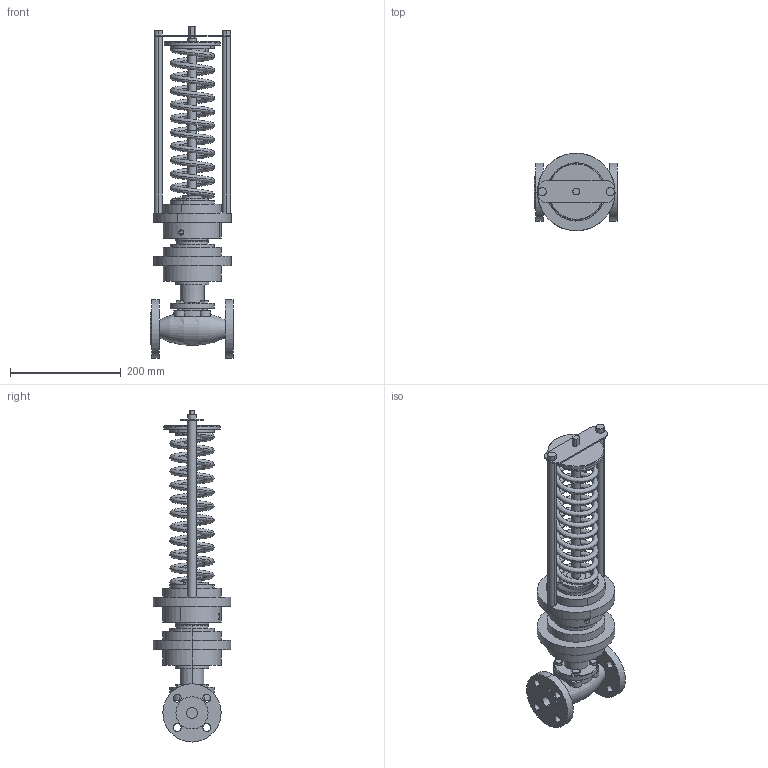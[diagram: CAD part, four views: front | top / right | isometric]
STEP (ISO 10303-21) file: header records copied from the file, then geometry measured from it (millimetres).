
FILE_DESCRIPTION (( 'STEP AP214' ), '1' );
FILE_NAME ('RDT, RDT-B DN-20 (0.1).STEP', '2025-12-12T06:56:38', ( '' ), ( '' ), 'SwSTEP 2.0', 'SolidWorks 2023', '' );
FILE_SCHEMA (( 'AUTOMOTIVE_DESIGN' ));
Length unit declared in the file: millimetre
Products named in the file (4): RDT, RDT-B DN-20 (0.1); RDT DN-20(______).stp; RDT, RDT-B DN-20 (0.1).stp; RDT___ DN-15-100(0.1)_1.stp
Assembly tree (3 placements, depth 3):
  RDT, RDT-B DN-20 (0.1)
    RDT, RDT-B DN-20 (0.1).stp
      RDT___ DN-15-100(0.1)_1.stp
      RDT DN-20(______).stp
Bounding box: 150 x 140 x 599 mm (x, y, z)
Volume: 2485315.9 mm3; surface area: 346073.7 mm2
Topology: 2 solids, 2 shells, 225 faces, 526 edges, 340 vertices
Faces by surface type: cylinder 104, plane 87, cone 30, bspline 2, torus 2
Entity records: 10900 total; most frequent: CARTESIAN_POINT 5409, DIRECTION 1207, ORIENTED_EDGE 1052, EDGE_CURVE 526, AXIS2_PLACEMENT_3D 491, VERTEX_POINT 340, EDGE_LOOP 290, CIRCLE 261
